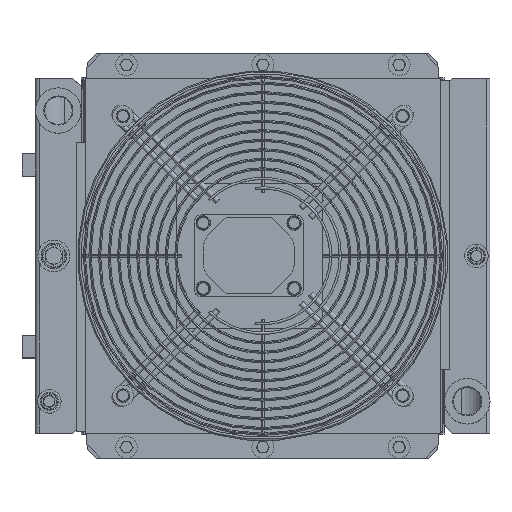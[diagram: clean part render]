
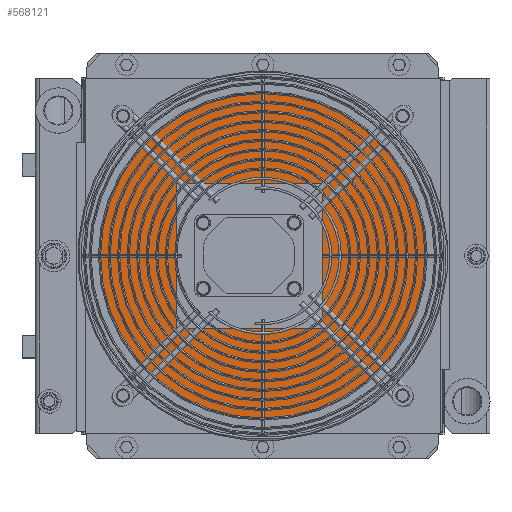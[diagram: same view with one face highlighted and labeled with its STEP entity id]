
A CAD part, top view. The second image highlights one B-rep face of the part: STEP entity #568121.
In plain terms, the highlighted planar face has unit normal (0, 0, 1).
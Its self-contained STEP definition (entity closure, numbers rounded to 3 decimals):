
#565791=CARTESIAN_POINT(' ',(194.247,385.89,31.5));
#565792=VERTEX_POINT(' ',#565791);
#566146=CARTESIAN_POINT(' ',(-194.247,385.89,31.5));
#566147=VERTEX_POINT(' ',#566146);
#566161=CARTESIAN_POINT(' ',(194.247,385.89,31.5));
#566166=DIRECTION(' ',(-1.,0.,0.));
#566171=VECTOR(' ',#566166,1.);
#566176=LINE(' ',#566161,#566171);
#566181=EDGE_CURVE(' ',#565792,#566147,#566176,.T.);
#566316=CARTESIAN_POINT(' ',(194.247,385.89,31.5));
#566321=DIRECTION(' ',(0.,-1.,0.));
#566326=VECTOR(' ',#566321,1.);
#566331=LINE(' ',#566316,#566326);
#566336=CARTESIAN_POINT(' ',(194.247,0.,31.5));
#566337=VERTEX_POINT(' ',#566336);
#566341=EDGE_CURVE(' ',#565792,#566337,#566331,.T.);
#567906=CARTESIAN_POINT(' ',(-194.247,385.89,31.5));
#567911=DIRECTION(' ',(0.,-1.,0.));
#567916=VECTOR(' ',#567911,1.);
#567921=LINE(' ',#567906,#567916);
#567926=CARTESIAN_POINT(' ',(-194.247,0.,31.5));
#567927=VERTEX_POINT(' ',#567926);
#567931=EDGE_CURVE(' ',#566147,#567927,#567921,.T.);
#568041=CARTESIAN_POINT(' ',(-194.247,0.,31.5));
#568046=DIRECTION(' ',(0.,0.,1.));
#568051=DIRECTION(' ',(1.,0.,0.));
#568056=AXIS2_PLACEMENT_3D(' ',#568041,#568046,#568051);
#568061=PLANE(' ',#568056);
#568066=ORIENTED_EDGE(' ',*,*,#566341,.F.);
#568071=ORIENTED_EDGE(' ',*,*,#566181,.T.);
#568076=ORIENTED_EDGE(' ',*,*,#567931,.T.);
#568081=CARTESIAN_POINT(' ',(194.247,0.,31.5));
#568086=DIRECTION(' ',(-1.,0.,0.));
#568091=VECTOR(' ',#568086,1.);
#568096=LINE(' ',#568081,#568091);
#568101=EDGE_CURVE(' ',#566337,#567927,#568096,.T.);
#568106=ORIENTED_EDGE(' ',*,*,#568101,.F.);
#568111=EDGE_LOOP(' ',(#568066,#568071,#568076,#568106));
#568116=FACE_OUTER_BOUND(' ',#568111,.T.);
#568121=ADVANCED_FACE(' ',(#568116),#568061,.T.);
